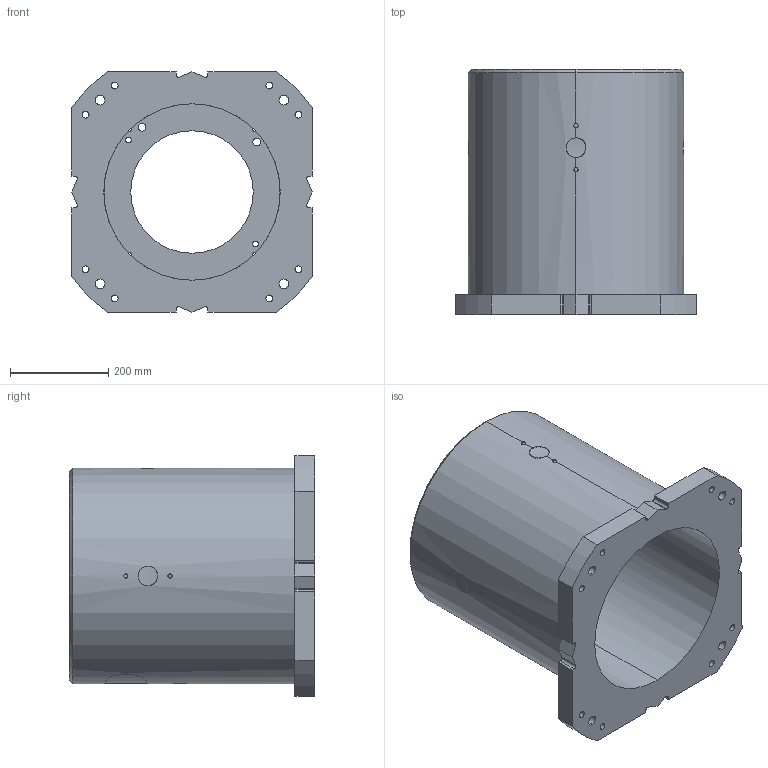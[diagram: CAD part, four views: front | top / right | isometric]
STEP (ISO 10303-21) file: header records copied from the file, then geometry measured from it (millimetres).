
FILE_DESCRIPTION (( 'STEP AP214' ), '1' );
FILE_NAME ('H-500.STEP', '2025-12-05T13:38:03', ( '' ), ( '' ), 'SwSTEP 2.0', 'SolidWorks 2022', '' );
FILE_SCHEMA (( 'AUTOMOTIVE_DESIGN' ));
Length unit declared in the file: millimetre
Products named in the file (1): H-500
Bounding box: 490 x 500 x 490 mm (x, y, z)
Volume: 29973030.2 mm3; surface area: 1650333.9 mm2
Topology: 1 solids, 1 shells, 155 faces, 431 edges, 284 vertices
Faces by surface type: cylinder 105, plane 32, bspline 16, cone 2
Entity records: 9315 total; most frequent: CARTESIAN_POINT 4824, ORIENTED_EDGE 862, DIRECTION 751, EDGE_CURVE 431, AXIS2_PLACEMENT_3D 290, VERTEX_POINT 284, EDGE_LOOP 203, VECTOR 171
